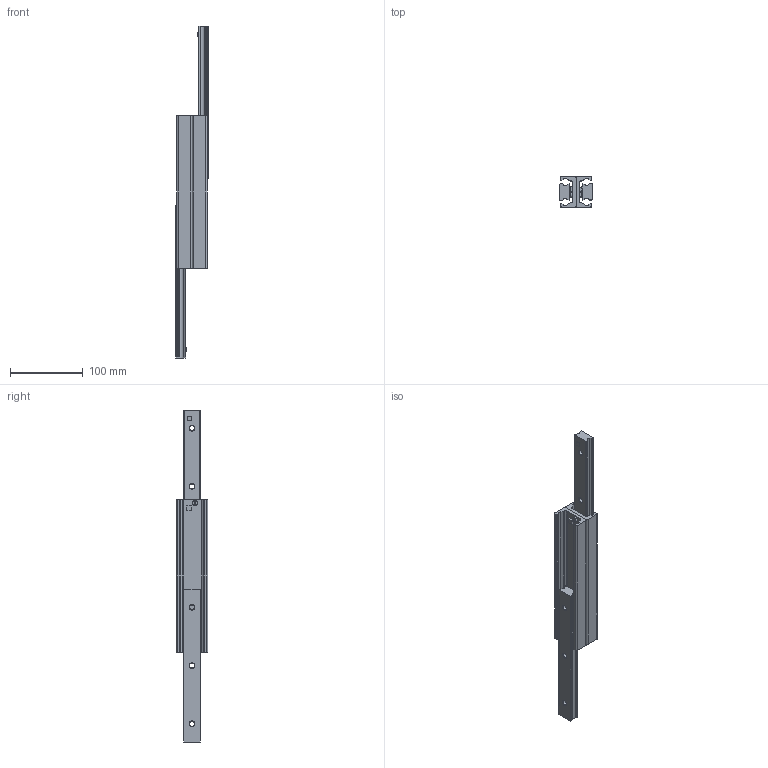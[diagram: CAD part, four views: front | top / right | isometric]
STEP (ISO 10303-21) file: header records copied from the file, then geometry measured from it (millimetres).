
FILE_DESCRIPTION( ( 'STEP AP214' ), '1' );
FILE_NAME( 'p:/temp/worker_81/temp/exporttempdir_3564_2046_hwO55/format_0/DEF43-210246.stp', '2020-03-20T19:50:02', ( 'License CC BY-ND 4.0' ), ( 'CADENAS' ), ' ', 'PARTsolutions', ' ' );
FILE_SCHEMA( ( 'AUTOMOTIVE_DESIGN { 1 0 10303 214 1 1 1 1 }' ) );
Length unit declared in the file: millimetre
Products named in the file (4): DEF43-210246; _432121024612-gf; _43212102461-ei; _432121024611-gf
Assembly tree (4 placements, depth 2):
  DEF43-210246
    _432121024612-gf
    _43212102461-ei  x2
    _432121024611-gf
Bounding box: 44 x 43 x 456 mm (x, y, z)
Volume: 259996.1 mm3; surface area: 101673.8 mm2
Topology: 4 solids, 4 shells, 170 faces, 434 edges, 284 vertices
Faces by surface type: plane 102, cylinder 52, cone 16
Full cylindrical faces by diameter (mm): 4.134 x2, 6.647 x6, 7 x2
Entity records: 4632 total; most frequent: DIRECTION 632, CARTESIAN_POINT 615, ORIENTED_EDGE 574, EDGE_CURVE 287, AXIS2_PLACEMENT_3D 218, VERTEX_POINT 201, LINE 196, VECTOR 196
